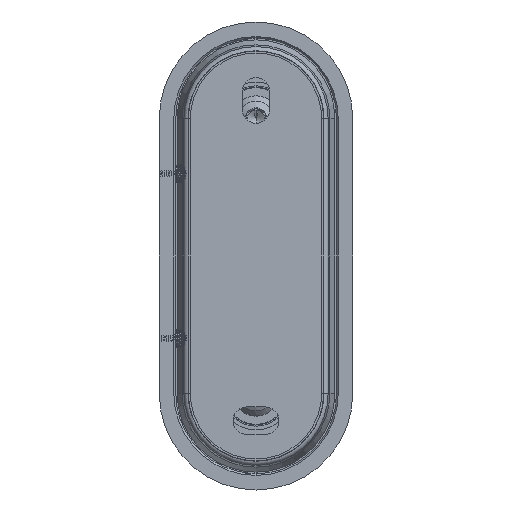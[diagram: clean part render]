
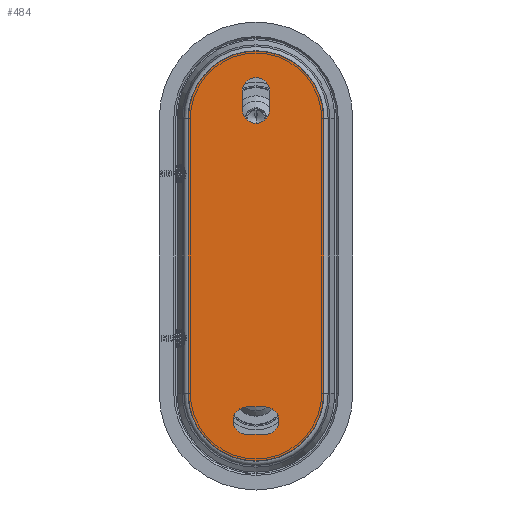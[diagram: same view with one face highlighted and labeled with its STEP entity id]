
A CAD part, front view. The second image highlights one B-rep face of the part: STEP entity #484.
In plain terms, the highlighted planar face has unit normal (0, -1, 0) as drawn and (0, 1, 0) by its records, which use the part's own axes.
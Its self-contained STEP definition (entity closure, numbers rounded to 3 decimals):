
#1=CARTESIAN_POINT('',(2.,6.,6.));
#2=DIRECTION('',(0.,1.,0.));
#3=DIRECTION('',(0.,0.,1.));
#4=AXIS2_PLACEMENT_3D('',#1,#2,#3);
#6=DIRECTION('',(-1.,0.,0.));
#7=VECTOR('',#6,4.);
#8=CARTESIAN_POINT('',(2.,6.,3.));
#9=LINE('',#8,#7);
#10=CARTESIAN_POINT('',(-2.,6.,6.));
#11=DIRECTION('',(0.,1.,0.));
#12=DIRECTION('',(0.,0.,-1.));
#13=AXIS2_PLACEMENT_3D('',#10,#11,#12);
#15=DIRECTION('',(1.,0.,0.));
#16=VECTOR('',#15,4.);
#17=CARTESIAN_POINT('',(-2.,6.,9.));
#18=LINE('',#17,#16);
#19=CARTESIAN_POINT('',(0.,6.,-66.));
#20=DIRECTION('',(0.,1.,0.));
#21=DIRECTION('',(1.,0.,0.));
#22=AXIS2_PLACEMENT_3D('',#19,#20,#21);
#24=DIRECTION('',(0.,0.,1.));
#25=VECTOR('',#24,4.);
#26=CARTESIAN_POINT('',(-3.,6.,-66.));
#27=LINE('',#26,#25);
#28=CARTESIAN_POINT('',(0.,6.,-62.));
#29=DIRECTION('',(0.,1.,0.));
#30=DIRECTION('',(-1.,0.,0.));
#31=AXIS2_PLACEMENT_3D('',#28,#29,#30);
#33=DIRECTION('',(0.,0.,-1.));
#34=VECTOR('',#33,4.);
#35=CARTESIAN_POINT('',(3.,6.,-62.));
#36=LINE('',#35,#34);
#37=CARTESIAN_POINT('',(0.,6.,-60.));
#38=DIRECTION('',(0.,-1.,0.));
#39=DIRECTION('',(-1.,0.,0.));
#40=AXIS2_PLACEMENT_3D('',#37,#38,#39);
#42=DIRECTION('',(0.,0.,1.));
#43=VECTOR('',#42,60.);
#44=CARTESIAN_POINT('',(14.79,6.,-60.));
#45=LINE('',#44,#43);
#46=CARTESIAN_POINT('',(0.,6.,0.));
#47=DIRECTION('',(0.,-1.,0.));
#48=DIRECTION('',(1.,0.,0.));
#49=AXIS2_PLACEMENT_3D('',#46,#47,#48);
#51=DIRECTION('',(0.,0.,-1.));
#52=VECTOR('',#51,60.);
#53=CARTESIAN_POINT('',(-14.79,6.,0.));
#54=LINE('',#53,#52);
#361=CARTESIAN_POINT('',(2.,6.,9.));
#362=CARTESIAN_POINT('',(2.,6.,3.));
#363=VERTEX_POINT('',#361);
#364=VERTEX_POINT('',#362);
#365=CARTESIAN_POINT('',(-2.,6.,3.));
#366=VERTEX_POINT('',#365);
#367=CARTESIAN_POINT('',(-2.,6.,9.));
#368=VERTEX_POINT('',#367);
#377=CARTESIAN_POINT('',(3.,6.,-66.));
#378=CARTESIAN_POINT('',(-3.,6.,-66.));
#379=VERTEX_POINT('',#377);
#380=VERTEX_POINT('',#378);
#381=CARTESIAN_POINT('',(-3.,6.,-62.));
#382=VERTEX_POINT('',#381);
#383=CARTESIAN_POINT('',(3.,6.,-62.));
#384=VERTEX_POINT('',#383);
#437=CARTESIAN_POINT('',(-14.79,6.,-60.));
#438=CARTESIAN_POINT('',(14.79,6.,-60.));
#439=VERTEX_POINT('',#437);
#440=VERTEX_POINT('',#438);
#443=CARTESIAN_POINT('',(14.79,6.,0.));
#444=VERTEX_POINT('',#443);
#447=CARTESIAN_POINT('',(-14.79,6.,0.));
#448=VERTEX_POINT('',#447);
#449=CARTESIAN_POINT('',(0.,6.,0.));
#450=DIRECTION('',(0.,-1.,0.));
#451=DIRECTION('',(-1.,0.,0.));
#452=AXIS2_PLACEMENT_3D('',#449,#450,#451);
#453=PLANE('',#452);
#455=ORIENTED_EDGE('',*,*,#454,.T.);
#457=ORIENTED_EDGE('',*,*,#456,.T.);
#459=ORIENTED_EDGE('',*,*,#458,.T.);
#461=ORIENTED_EDGE('',*,*,#460,.T.);
#462=EDGE_LOOP('',(#455,#457,#459,#461));
#463=FACE_OUTER_BOUND('',#462,.F.);
#465=ORIENTED_EDGE('',*,*,#464,.T.);
#467=ORIENTED_EDGE('',*,*,#466,.T.);
#469=ORIENTED_EDGE('',*,*,#468,.T.);
#471=ORIENTED_EDGE('',*,*,#470,.T.);
#472=EDGE_LOOP('',(#465,#467,#469,#471));
#473=FACE_BOUND('',#472,.F.);
#475=ORIENTED_EDGE('',*,*,#474,.T.);
#477=ORIENTED_EDGE('',*,*,#476,.T.);
#479=ORIENTED_EDGE('',*,*,#478,.T.);
#481=ORIENTED_EDGE('',*,*,#480,.T.);
#482=EDGE_LOOP('',(#475,#477,#479,#481));
#483=FACE_BOUND('',#482,.F.);
#484=ADVANCED_FACE('',(#463,#473,#483),#453,.F.);
#5=CIRCLE('',#4,3.);
#14=CIRCLE('',#13,3.);
#23=CIRCLE('',#22,3.);
#32=CIRCLE('',#31,3.);
#41=CIRCLE('',#40,14.79);
#50=CIRCLE('',#49,14.79);
#454=EDGE_CURVE('',#439,#440,#41,.T.);
#456=EDGE_CURVE('',#440,#444,#45,.T.);
#458=EDGE_CURVE('',#444,#448,#50,.T.);
#460=EDGE_CURVE('',#448,#439,#54,.T.);
#464=EDGE_CURVE('',#379,#380,#23,.T.);
#466=EDGE_CURVE('',#380,#382,#27,.T.);
#468=EDGE_CURVE('',#382,#384,#32,.T.);
#470=EDGE_CURVE('',#384,#379,#36,.T.);
#474=EDGE_CURVE('',#363,#364,#5,.T.);
#476=EDGE_CURVE('',#364,#366,#9,.T.);
#478=EDGE_CURVE('',#366,#368,#14,.T.);
#480=EDGE_CURVE('',#368,#363,#18,.T.);
